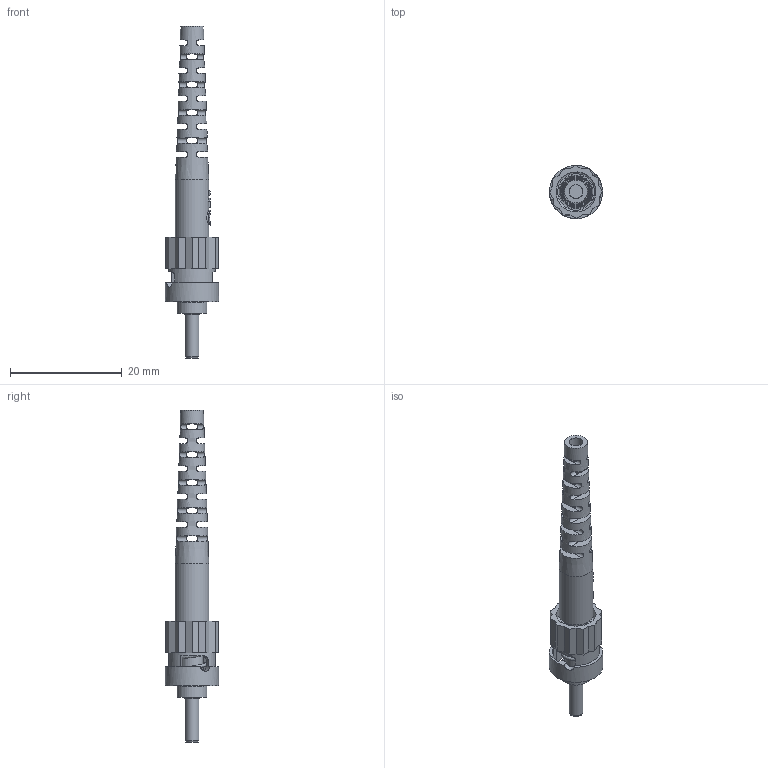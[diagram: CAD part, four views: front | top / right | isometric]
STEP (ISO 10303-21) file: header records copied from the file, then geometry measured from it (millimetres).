
FILE_DESCRIPTION(/* description */ ('Alibre Inc.'),/* implementation_level */ '2;1');
FILE_NAME(/* name */ 'export0',/* time_stamp */ '2013-01-10T08:27:00-07:00',/* author */ (''),/* organization */ (''),/* preprocessor_version */ 'ST-DEVELOPER v14',/* originating_system */ 'Alibre',/* authorisation */ '');
FILE_SCHEMA (('AUTOMOTIVE_DESIGN'));
Length unit declared in the file: centimetre
Bounding box: 9.52 x 9.52 x 59.43 mm (x, y, z)
Volume: 1108.5 mm3; surface area: 2224 mm2
Topology: 2 solids, 3 shells, 208 faces, 561 edges, 354 vertices
Faces by surface type: plane 118, cylinder 70, bspline 9, cone 6, torus 5
Full cylindrical faces by diameter (mm): 2.498 x1, 2.5 x1, 2.86 x1, 3.429 x1, 3.57 x2, 4 x2, 4.25 x1, 5.3 x1, 6 x1, 7.163 x2, 8.4 x1, 9.525 x1
Entity records: 9053 total; most frequent: CARTESIAN_POINT 4544, ORIENTED_EDGE 1022, DIRECTION 702, EDGE_CURVE 508, VERTEX_POINT 334, AXIS2_PLACEMENT_3D 302, EDGE_LOOP 285, FACE_BOUND 285
